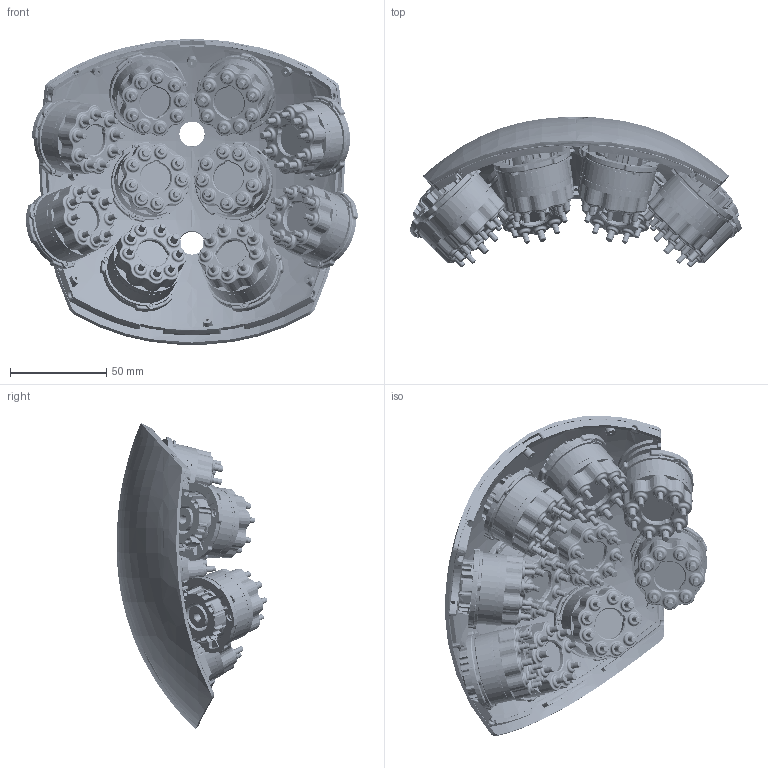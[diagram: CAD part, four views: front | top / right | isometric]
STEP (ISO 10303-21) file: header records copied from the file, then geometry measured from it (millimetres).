
FILE_DESCRIPTION (( 'STEP AP214' ), '1' );
FILE_NAME ('Kernel_Flow2_Simplified_TopPlate_wModules.STEP', '2024-10-04T13:05:45', ( '' ), ( '' ), 'SwSTEP 2.0', 'SolidWorks 2023', '' );
FILE_SCHEMA (( 'AUTOMOTIVE_DESIGN' ));
Length unit declared in the file: millimetre
Products named in the file (13): Kernel Generic Module Flow2.STEP_M20; Kernel Generic Module Flow2.STEP_M21; Kernel_Flow2_Simplified_Crown_Outer_Cover_Rev3; Kernel Generic Module Flow2.STEP_M13; Kernel Generic Module Flow2.STEP_M22; Kernel Generic Module Flow2.STEP_M12; Kernel_Flow2_Simplified_TopPlate_wModules; Kernel Generic Module Flow2.STEP_M11; Kernel_Flow2_Simplified_Crown_Plate_Rev5; Kernel Generic Module Flow2.STEP_M16; Kernel Generic Module Flow2.STEP_M10; Kernel Generic Module Flow2.STEP_M23; Kernel Generic Module Flow2.STEP_M17
Assembly tree (12 placements, depth 2):
  Kernel_Flow2_Simplified_TopPlate_wModules
    Kernel_Flow2_Simplified_Crown_Outer_Cover_Rev3
    Kernel_Flow2_Simplified_Crown_Plate_Rev5
    Kernel Generic Module Flow2.STEP_M10
    Kernel Generic Module Flow2.STEP_M11
    Kernel Generic Module Flow2.STEP_M12
    Kernel Generic Module Flow2.STEP_M13
    Kernel Generic Module Flow2.STEP_M16
    Kernel Generic Module Flow2.STEP_M17
    Kernel Generic Module Flow2.STEP_M22
    Kernel Generic Module Flow2.STEP_M23
    Kernel Generic Module Flow2.STEP_M20
    Kernel Generic Module Flow2.STEP_M21
Bounding box: 172.04 x 78.1 x 158.89 mm (x, y, z)
Volume: 55983.6 mm3; surface area: 222192.6 mm2
Topology: 6 solids, 196 shells, 9600 faces, 24040 edges, 14978 vertices
Faces by surface type: cylinder 3241, plane 2208, torus 1610, cone 1430, bspline 661, sphere 450
Entity records: 393595 total; most frequent: CARTESIAN_POINT 164649, DIRECTION 49840, ORIENTED_EDGE 47390, EDGE_CURVE 23730, AXIS2_PLACEMENT_3D 21290, VERTEX_POINT 14898, CIRCLE 12355, EDGE_LOOP 10150
